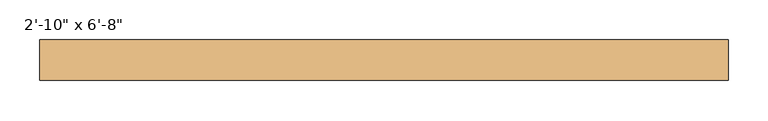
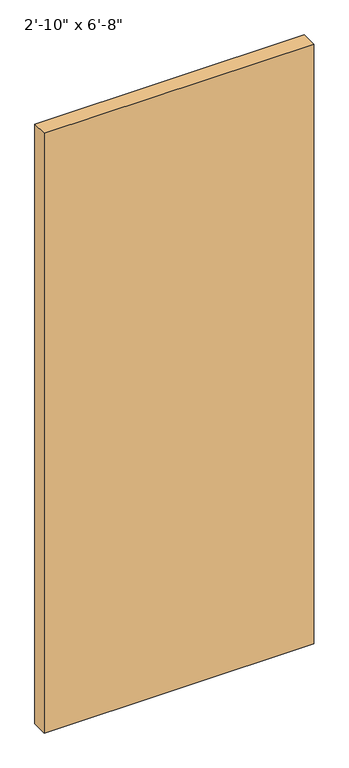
"""IFC4 building model written with IfcOpenShell, lengths in millimetres: door geometry."""

import ifcopenshell
import ifcopenshell.guid

model = None  # the IFC model being written
_history = None  # IfcOwnerHistory: only IFC2X3 demands one
_inside = {}  # id of a spatial element -> (the spatial element, [elements in it])
_under = {}  # id of a project, library or spatial element -> (it, [spatial elements below it])
_declared = {}  # id of a project -> (the project, [libraries it declares])
_typed = {}  # id of a type object -> (the type object, [elements of that type])
_made_of = {}  # id of a material, layer set ... -> (it, [elements and type objects made of it])


def new_model(schema):
    """Start an empty IFC model of exactly this schema.

    Asked for "IFC4X3", IfcOpenShell would pick the latest addendum, in which some entities
    have other attributes; the version numbers below select the first issue.
    IFC2X3 requires an IfcOwnerHistory on every rooted entity: one is made here for all.
    """
    global model, _history
    if schema == "IFC4X3":
        model = ifcopenshell.file(schema_version=(4, 3, 0, 0))
    else:
        model = ifcopenshell.file(schema=schema)
    _inside.clear()
    _under.clear()
    _declared.clear()
    _typed.clear()
    _made_of.clear()
    _history = None
    if model.schema == "IFC2X3":
        org = make("IfcOrganization", Name="unknown")
        user = make(
            "IfcPersonAndOrganization",
            ThePerson=make("IfcPerson", FamilyName="unknown"),
            TheOrganization=org,
        )
        app = make(
            "IfcApplication",
            ApplicationDeveloper=org,
            Version="unknown",
            ApplicationFullName="unknown",
            ApplicationIdentifier="unknown",
        )
        _history = make(
            "IfcOwnerHistory",
            OwningUser=user,
            OwningApplication=app,
            ChangeAction="ADDED",
            CreationDate=0,
        )
    return model


def make(cls, **values):
    """One entity of the class cls with the attributes given. An attribute that is None is left unset."""
    return model.create_entity(
        cls, **{name: value for name, value in values.items() if value is not None}
    )


def rooted(cls, **values):
    """An entity with a GlobalId (a new one), such as an element, a storey or a relation."""
    return make(cls, GlobalId=ifcopenshell.guid.new(), OwnerHistory=_history, **values)


def si_unit(unit_type, name, prefix=None):
    """IfcSIUnit, for example si_unit("LENGTHUNIT", "METRE", prefix="MILLI")."""
    return make("IfcSIUnit", UnitType=unit_type, Prefix=prefix, Name=name)


def assignment(units):
    """IfcUnitAssignment: the units of a project."""
    return None if units is None else make("IfcUnitAssignment", Units=units)


def point(xyz):
    """IfcCartesianPoint."""
    return None if xyz is None else make("IfcCartesianPoint", Coordinates=xyz)


def direction(xyz):
    """IfcDirection."""
    return None if xyz is None else make("IfcDirection", DirectionRatios=xyz)


def frame(location, z_axis=None, x_axis=None):
    """IfcAxis2Placement3D, a coordinate frame: its origin and axes. An axis left out is left unset."""
    return make(
        "IfcAxis2Placement3D",
        Location=point(location),
        Axis=direction(z_axis),
        RefDirection=direction(x_axis),
    )


def origin():
    """The frame at (0, 0, 0) with its axes left unset."""
    return frame((0.0, 0.0, 0.0))


def origin_with_axes():
    """The frame at (0, 0, 0) with the z axis (0, 0, 1) and the x axis (1, 0, 0) written out."""
    return frame((0.0, 0.0, 0.0), z_axis=(0.0, 0.0, 1.0), x_axis=(1.0, 0.0, 0.0))


def place(relative_to, where):
    """IfcLocalPlacement: puts the frame where relative to a parent placement (None: the world)."""
    return make(
        "IfcLocalPlacement", PlacementRelTo=relative_to, RelativePlacement=where
    )


def context(
    kind, dimensions, precision=None, world=None, true_north=None, identifier=None
):
    """IfcGeometricRepresentationContext, for example the 3D "Model" context."""
    return make(
        "IfcGeometricRepresentationContext",
        ContextIdentifier=identifier,
        ContextType=kind,
        CoordinateSpaceDimension=dimensions,
        Precision=precision,
        WorldCoordinateSystem=world,
        TrueNorth=true_north,
    )


def project(units=None, contexts=None):
    """IfcProject with its units and contexts."""
    return rooted(
        "IfcProject",
        Name="project",
        RepresentationContexts=contexts,
        UnitsInContext=assignment(units),
    )


def spatial(cls, under=None, at=None, **own):
    """A site, building, storey or space (cls), placed at a placement, below another one or the project."""
    s = rooted(cls, ObjectPlacement=at, **own)
    if under is not None:
        _under.setdefault(under.id(), (under, []))[1].append(s)
    return s


def polyline(points):
    """IfcPolyline through the points."""
    return make("IfcPolyline", Points=[point(p) for p in points])


def outline(outer, holes=None, kind="AREA"):
    """IfcArbitraryClosedProfileDef: a profile drawn as a closed curve; with holes, ...WithVoids."""
    if holes is None:
        return make("IfcArbitraryClosedProfileDef", ProfileType=kind, OuterCurve=outer)
    return make(
        "IfcArbitraryProfileDefWithVoids",
        ProfileType=kind,
        OuterCurve=outer,
        InnerCurves=holes,
    )


def extrude(swept, where, along, depth):
    """IfcExtrudedAreaSolid: the profile swept, set in the frame where, extruded along a direction by depth."""
    return make(
        "IfcExtrudedAreaSolid",
        SweptArea=swept,
        Position=where,
        ExtrudedDirection=direction(along),
        Depth=depth,
    )


def shape(context_of_items, identifier, shape_type, items):
    """IfcShapeRepresentation: the items that make up one representation, for example the "Body"."""
    return make(
        "IfcShapeRepresentation",
        ContextOfItems=context_of_items,
        RepresentationIdentifier=identifier,
        RepresentationType=shape_type,
        Items=items,
    )


def source(mapping_origin, context_of_items, identifier, shape_type, items):
    """IfcRepresentationMap: a shape defined once, which mapped items show again and again."""
    return make(
        "IfcRepresentationMap",
        MappingOrigin=mapping_origin,
        MappedRepresentation=shape(context_of_items, identifier, shape_type, items),
    )


def transform(
    local_origin,
    x_axis=None,
    y_axis=None,
    z_axis=None,
    scale=None,
    scale2=None,
    scale3=None,
    uniform=True,
):
    """IfcCartesianTransformationOperator3D, or its non-uniform kind. x_axis, y_axis, z_axis: its Axis1, 2, 3."""
    if uniform:
        return make(
            "IfcCartesianTransformationOperator3D",
            Axis1=direction(x_axis),
            Axis2=direction(y_axis),
            LocalOrigin=point(local_origin),
            Scale=scale,
            Axis3=direction(z_axis),
        )
    return make(
        "IfcCartesianTransformationOperator3DnonUniform",
        Axis1=direction(x_axis),
        Axis2=direction(y_axis),
        LocalOrigin=point(local_origin),
        Scale=scale,
        Axis3=direction(z_axis),
        Scale2=scale2,
        Scale3=scale3,
    )


def mapped(mapping_source, mapping_target):
    """IfcMappedItem: shows the shape of a source again, moved by a transform."""
    return make(
        "IfcMappedItem", MappingSource=mapping_source, MappingTarget=mapping_target
    )


def made_of(thing, what):
    """Note that an element or type object is made of a material, layer set ...; save() writes the relation."""
    if what is not None:
        _made_of.setdefault(what.id(), (what, []))[1].append(thing)
    return thing


def element(
    cls,
    number,
    at=None,
    inside=None,
    cuts=None,
    type_object=None,
    material=None,
    context=None,
    identifier="Body",
    shape_type=None,
    held_by="IfcProductDefinitionShape",
    body=None,
    shapes=None,
    **own,
):
    """One element of the class cls, such as IfcWall. Its Tag is "e" and its number.

    at: its placement. inside: the storey or other place that contains it. cuts: it is an
    opening in that element (IfcRelVoidsElement). A single representation is given by context,
    identifier, shape_type and body (its items); several are given by shapes. held_by: the class
    of the entity that holds the representations. save() writes the other relations.
    """
    e = rooted(cls, Tag="e%d" % number, ObjectPlacement=at, **own)
    if body is not None:
        shapes = [shape(context, identifier, shape_type, body)]
    if shapes is not None:
        e.Representation = make(held_by, Representations=shapes)
    if inside is not None:
        _inside.setdefault(inside.id(), (inside, []))[1].append(e)
    if cuts is not None:
        rooted(
            "IfcRelVoidsElement", RelatingBuildingElement=cuts, RelatedOpeningElement=e
        )
    if type_object is not None:
        _typed.setdefault(type_object.id(), (type_object, []))[1].append(e)
    return made_of(e, material)


def aggregate(whole, parts):
    """IfcRelAggregates: a whole, such as a stair, and the parts it consists of."""
    return rooted("IfcRelAggregates", RelatingObject=whole, RelatedObjects=parts)


def save(model, path):
    """Write the relations noted so far, then the file.

    IfcRelAggregates (storeys below a building ...), IfcRelContainedInSpatialStructure (elements
    in a storey), IfcRelDefinesByType, IfcRelAssociatesMaterial and IfcRelDeclares: one each for
    every whole, place, type object, material and project.
    """
    for whole, parts in _under.values():
        aggregate(whole, parts)
    for where, things in _inside.values():
        rooted(
            "IfcRelContainedInSpatialStructure",
            RelatedElements=things,
            RelatingStructure=where,
        )
    for kind, things in _typed.values():
        rooted("IfcRelDefinesByType", RelatedObjects=things, RelatingType=kind)
    for what, things in _made_of.values():
        rooted("IfcRelAssociatesMaterial", RelatedObjects=things, RelatingMaterial=what)
    for by, libraries in _declared.values():
        rooted("IfcRelDeclares", RelatingContext=by, RelatedDefinitions=libraries)
    model.write(path)


def door_70dd2ab3(model_context):
    return source(origin(), model_context, "Body", "SweptSolid", [
        extrude(outline(polyline([(431.8, 56.95), (-431.8, 56.95), (-431.8, 107.95), (431.8, 107.95), (431.8, 56.95)])), origin_with_axes(), (0.0, 0.0, 1.0), 2032.0),
    ])


if __name__ == "__main__":
    model = new_model("IFC4")
    model_context = context("Model", 3, world=origin())
    ifc_project = project(units=[si_unit("LENGTHUNIT", "METRE", prefix="MILLI")], contexts=[model_context])
    site = spatial("IfcSite", under=ifc_project)
    building = spatial("IfcBuilding", under=site)
    placement = place(None, origin())
    door_shape = door_70dd2ab3(model_context)
    element("IfcDoor", 1, ObjectType="Planitar - Single Door_Flush Panel : 2'-10\" x 6'-8\"", at=placement, inside=building, context=model_context, shape_type="MappedRepresentation", body=[
        mapped(door_shape, transform((0.0, 0.0, 0.0), x_axis=(1.0, 0.0, 0.0), y_axis=(0.0, 1.0, 0.0), z_axis=(0.0, 0.0, 1.0))),
    ])
    save(model, "model.ifc")
